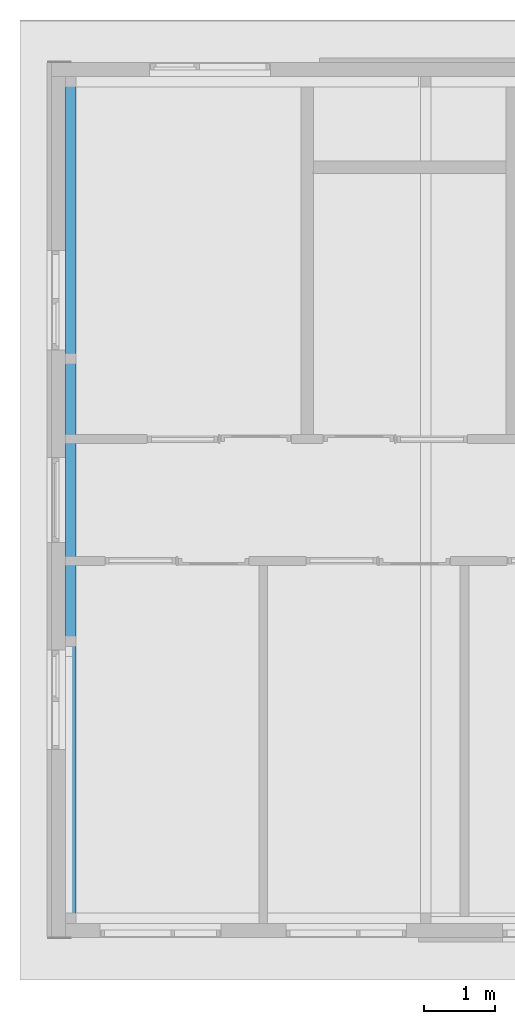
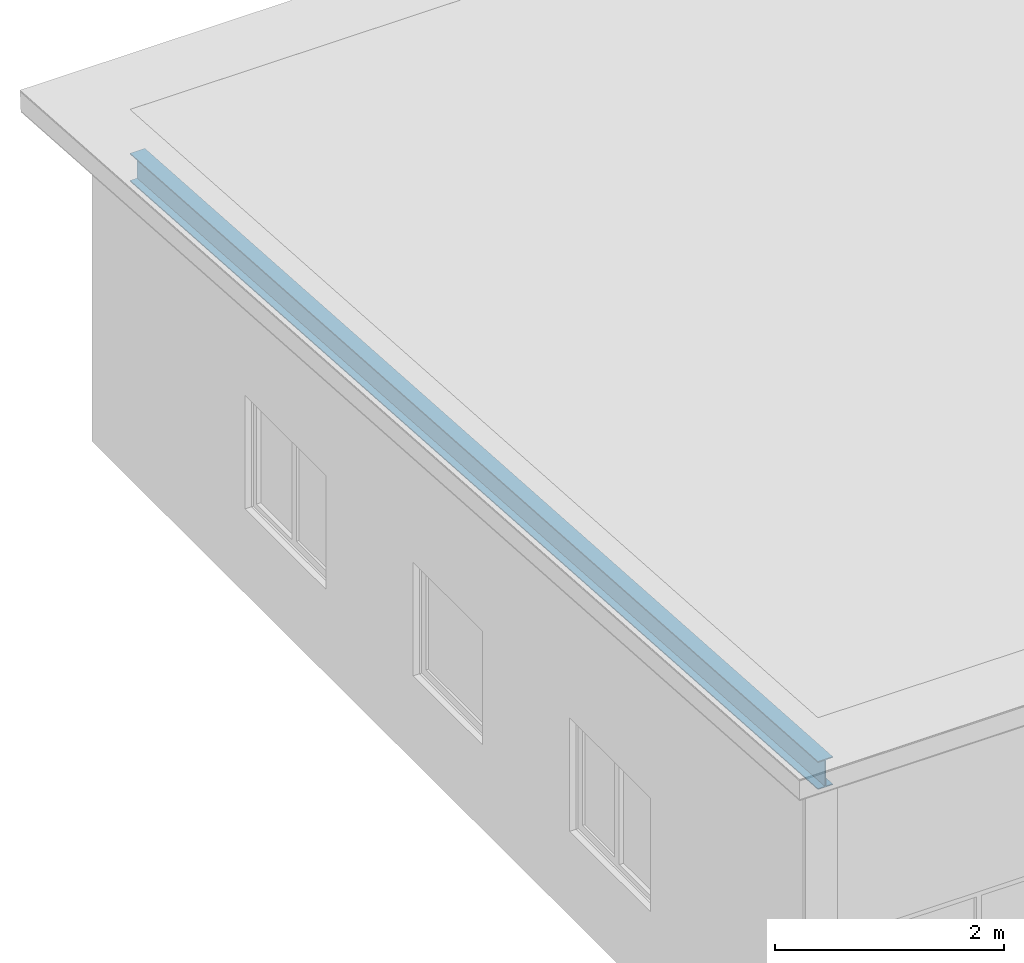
# One storey, part 4 of 37: 1 beam.
"""IFC2X3 building model written with IfcOpenShell, lengths in millimetres."""

from ifc_helpers import new_model, entity, si_unit, converted_unit, frame, origin, place, context, subcontext, project, spatial, faceted_brep, material, element, save


model = new_model("IFC2X3")

# Units and contexts
model_context = context("Model", 3, precision=1e-05, world=origin())
plan_context = context("Plan", 3, precision=1e-05, world=origin())
body_context = subcontext(model_context, "Body", "Model", "MODEL_VIEW")
ifc_project = project(units=[si_unit("LENGTHUNIT", "METRE", prefix="MILLI"), converted_unit("PLANEANGLEUNIT", "DEGREE", entity("IfcPlaneAngleMeasure", 0.0174532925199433), si_unit("PLANEANGLEUNIT", "RADIAN"), dimensions=[0, 0, 0, 0, 0, 0, 0]), si_unit("AREAUNIT", "SQUARE_METRE"), si_unit("VOLUMEUNIT", "CUBIC_METRE")], contexts=[model_context, plan_context])

# Building, storey
building_placement = place(None, origin())
building = spatial("IfcBuilding", under=ifc_project, at=building_placement, Name="HEKF Administrasjonbygg", CompositionType="ELEMENT")
storey_placement = place(building_placement, frame((0.0, 0.0, 9900.0), z_axis=(0.0, 0.0, 1.0), x_axis=(1.0, 0.0, 0.0)))
storey = spatial("IfcBuildingStorey", under=building, at=storey_placement, Name="Plan 2", CompositionType="ELEMENT", Elevation=9900.0)

# Beam
ifc_material = material(Name="Betong i drager")
beam_placement = place(storey_placement, frame((9899.999999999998, 6.808070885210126e-30, 2799.334072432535), z_axis=(0.0, 0.0, 1.0), x_axis=(-1.515824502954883e-16, -0.9999999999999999, 0.0)))
element("IfcBeam", 1, at=beam_placement, inside=storey, material=ifc_material, context=body_context, shape_type="Brep", body=[
    faceted_brep([(11999.99999999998, 0.0, 1100.665927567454), (11999.99999999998, 1.818989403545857e-12, 1089.942176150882), (0.0, 0.0, 289.9421761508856), (0.0, 0.0, 300.6659275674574), (11999.99999999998, 0.0, 810.7237514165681), (11999.99999999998, 0.0, 799.9999999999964), (0.0, 0.0, 0.0), (-2.01948391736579e-28, 1.818989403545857e-12, 10.72375141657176), (11999.99999999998, 150.0, 1100.665927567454), (11999.99999999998, 150.0, 1089.942176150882), (11999.99999999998, 78.54999999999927, 1089.942176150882), (11999.99999999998, 78.54999999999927, 810.7237514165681), (11999.99999999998, 150.0, 810.7237514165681), (11999.99999999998, 150.0, 799.9999999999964), (11999.99999999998, 0.0, 799.9999999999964), (11999.99999999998, 0.0, 810.7237514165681), (11999.99999999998, 71.45000000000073, 810.7237514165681), (11999.99999999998, 71.45000000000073, 1089.942176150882), (11999.99999999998, 1.818989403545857e-12, 1089.942176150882), (11999.99999999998, 0.0, 1100.665927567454), (0.0, 150.0, 300.6659275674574), (0.0, 150.0, 289.9421761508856), (11999.99999999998, 150.0, 1089.942176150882), (11999.99999999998, 150.0, 1100.665927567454), (0.0, 150.0, 10.72375141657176), (0.0, 150.0, 0.0), (11999.99999999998, 150.0, 799.9999999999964), (11999.99999999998, 150.0, 810.7237514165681), (0.0, 0.0, 300.6659275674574), (0.0, 0.0, 289.9421761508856), (3.61451643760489e-12, 71.44999999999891, 289.9421761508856), (3.61451643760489e-12, 71.44999999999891, 10.72375141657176), (-2.01948391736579e-28, 1.818989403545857e-12, 10.72375141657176), (0.0, 0.0, 0.0), (0.0, 150.0, 0.0), (0.0, 150.0, 10.72375141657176), (3.614581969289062e-12, 78.55000000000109, 10.72375141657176), (3.614581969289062e-12, 78.55000000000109, 289.9421761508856), (0.0, 150.0, 289.9421761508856), (0.0, 150.0, 300.6659275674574), (11999.99999999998, 150.0, 810.7237514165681), (11999.99999999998, 78.54999999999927, 810.7237514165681), (3.614581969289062e-12, 78.55000000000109, 10.72375141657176), (0.0, 150.0, 10.72375141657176), (11999.99999999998, 78.54999999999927, 810.7237514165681), (11999.99999999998, 78.54999999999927, 1089.942176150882), (3.614581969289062e-12, 78.55000000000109, 289.9421761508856), (3.614581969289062e-12, 78.55000000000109, 10.72375141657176), (11999.99999999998, 78.54999999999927, 1089.942176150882), (11999.99999999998, 150.0, 1089.942176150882), (0.0, 150.0, 289.9421761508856), (3.614581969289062e-12, 78.55000000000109, 289.9421761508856), (11999.99999999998, 150.0, 1100.665927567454), (11999.99999999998, 0.0, 1100.665927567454), (0.0, 0.0, 300.6659275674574), (0.0, 150.0, 300.6659275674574), (11999.99999999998, 1.818989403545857e-12, 1089.942176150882), (11999.99999999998, 71.45000000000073, 1089.942176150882), (3.61451643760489e-12, 71.44999999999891, 289.9421761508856), (0.0, 0.0, 289.9421761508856), (11999.99999999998, 71.45000000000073, 1089.942176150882), (11999.99999999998, 71.45000000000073, 810.7237514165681), (3.61451643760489e-12, 71.44999999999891, 10.72375141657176), (3.61451643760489e-12, 71.44999999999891, 289.9421761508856), (11999.99999999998, 71.45000000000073, 810.7237514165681), (11999.99999999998, 0.0, 810.7237514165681), (-2.01948391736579e-28, 1.818989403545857e-12, 10.72375141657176), (3.61451643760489e-12, 71.44999999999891, 10.72375141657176), (11999.99999999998, 0.0, 799.9999999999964), (11999.99999999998, 150.0, 799.9999999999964), (0.0, 150.0, 0.0), (0.0, 0.0, 0.0)], [[[0, 1, 2, 3]], [[4, 5, 6, 7]], [[8, 9, 10, 11, 12, 13, 14, 15, 16, 17, 18, 19]], [[20, 21, 22, 23]], [[24, 25, 26, 27]], [[28, 29, 30, 31, 32, 33, 34, 35, 36, 37, 38, 39]], [[40, 41, 42, 43]], [[44, 45, 46, 47]], [[48, 49, 50, 51]], [[52, 53, 54, 55]], [[56, 57, 58, 59]], [[60, 61, 62, 63]], [[64, 65, 66, 67]], [[68, 69, 70, 71]]], orient=[[False], [False], [False], [False], [False], [False], [False], [False], [False], [False], [False], [False], [False], [False]]),
])

save(model, "model.ifc")
